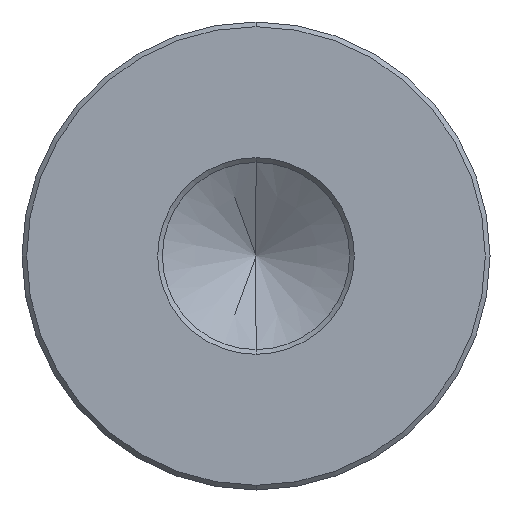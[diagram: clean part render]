
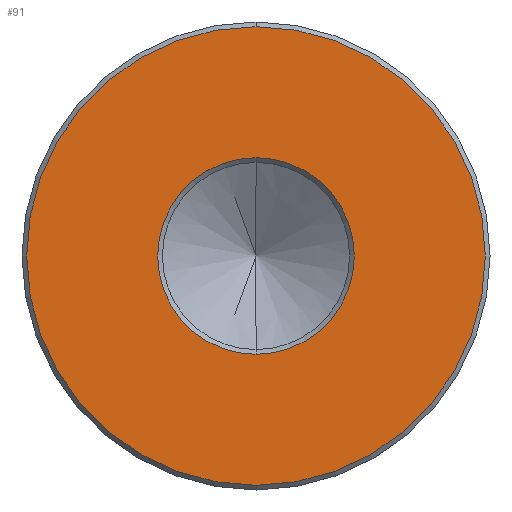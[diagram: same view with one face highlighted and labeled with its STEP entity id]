
A CAD part, front view. The second image highlights one B-rep face of the part: STEP entity #91.
In plain terms, the highlighted planar face has unit normal (0, -1, 0).
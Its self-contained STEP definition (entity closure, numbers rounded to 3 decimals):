
#1 = CIRCLE ( 'NONE', #237, 9.8 ) ;
#9 = AXIS2_PLACEMENT_3D ( 'NONE', #533, #515, #262 ) ;
#54 = DIRECTION ( 'NONE',  ( 0., -1., 0. ) ) ;
#61 = FACE_BOUND ( 'NONE', #744, .T. ) ;
#64 = CARTESIAN_POINT ( 'NONE',  ( 0., 0., -9.8 ) ) ;
#65 = DIRECTION ( 'NONE',  ( 0., 0., 1. ) ) ;
#73 = VERTEX_POINT ( 'NONE', #64 ) ;
#87 = ORIENTED_EDGE ( 'NONE', *, *, #378, .T. ) ;
#91 = ADVANCED_FACE ( 'NONE', ( #61, #372 ), #195, .F. ) ;
#110 = VERTEX_POINT ( 'NONE', #388 ) ;
#121 = ORIENTED_EDGE ( 'NONE', *, *, #719, .T. ) ;
#159 = CIRCLE ( 'NONE', #9, 4.2 ) ;
#190 = DIRECTION ( 'NONE',  ( 0., 0., 1. ) ) ;
#195 = PLANE ( 'NONE',  #219 ) ;
#219 = AXIS2_PLACEMENT_3D ( 'NONE', #777, #263, #190 ) ;
#237 = AXIS2_PLACEMENT_3D ( 'NONE', #755, #54, #743 ) ;
#250 = CARTESIAN_POINT ( 'NONE',  ( 0., 0., -4.2 ) ) ;
#262 = DIRECTION ( 'NONE',  ( 0., 0., 1. ) ) ;
#263 = DIRECTION ( 'NONE',  ( 0., 1., 0. ) ) ;
#306 = VERTEX_POINT ( 'NONE', #730 ) ;
#325 = CARTESIAN_POINT ( 'NONE',  ( 0., 0., 0. ) ) ;
#372 = FACE_OUTER_BOUND ( 'NONE', #408, .T. ) ;
#378 = EDGE_CURVE ( 'NONE', #73, #110, #1, .T. ) ;
#388 = CARTESIAN_POINT ( 'NONE',  ( 0., 0., 9.8 ) ) ;
#391 = EDGE_CURVE ( 'NONE', #436, #306, #524, .T. ) ;
#408 = EDGE_LOOP ( 'NONE', ( #121, #87 ) ) ;
#419 = CIRCLE ( 'NONE', #589, 9.8 ) ;
#436 = VERTEX_POINT ( 'NONE', #250 ) ;
#446 = CARTESIAN_POINT ( 'NONE',  ( 0., 0., 0. ) ) ;
#457 = AXIS2_PLACEMENT_3D ( 'NONE', #446, #751, #563 ) ;
#515 = DIRECTION ( 'NONE',  ( 0., 1., 0. ) ) ;
#524 = CIRCLE ( 'NONE', #457, 4.2 ) ;
#533 = CARTESIAN_POINT ( 'NONE',  ( 0., 0., 0. ) ) ;
#563 = DIRECTION ( 'NONE',  ( 0., 0., 1. ) ) ;
#578 = ORIENTED_EDGE ( 'NONE', *, *, #391, .T. ) ;
#589 = AXIS2_PLACEMENT_3D ( 'NONE', #325, #770, #65 ) ;
#648 = EDGE_CURVE ( 'NONE', #306, #436, #159, .T. ) ;
#719 = EDGE_CURVE ( 'NONE', #110, #73, #419, .T. ) ;
#730 = CARTESIAN_POINT ( 'NONE',  ( 0., 0., 4.2 ) ) ;
#743 = DIRECTION ( 'NONE',  ( 0., 0., 1. ) ) ;
#744 = EDGE_LOOP ( 'NONE', ( #578, #776 ) ) ;
#751 = DIRECTION ( 'NONE',  ( 0., 1., 0. ) ) ;
#755 = CARTESIAN_POINT ( 'NONE',  ( 0., 0., 0. ) ) ;
#770 = DIRECTION ( 'NONE',  ( 0., -1., 0. ) ) ;
#776 = ORIENTED_EDGE ( 'NONE', *, *, #648, .T. ) ;
#777 = CARTESIAN_POINT ( 'NONE',  ( 0., 0., 0. ) ) ;
